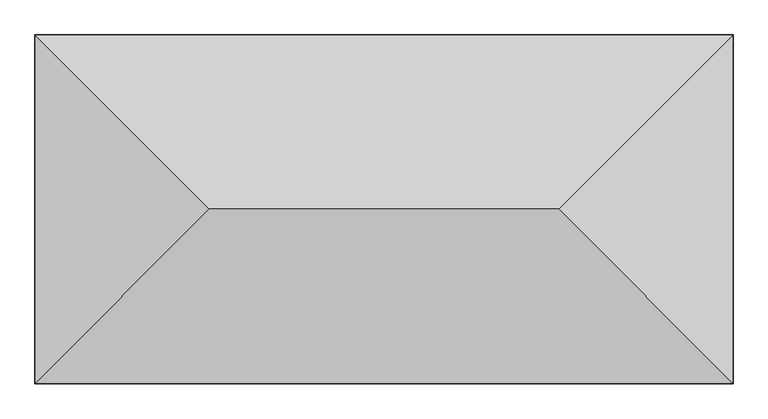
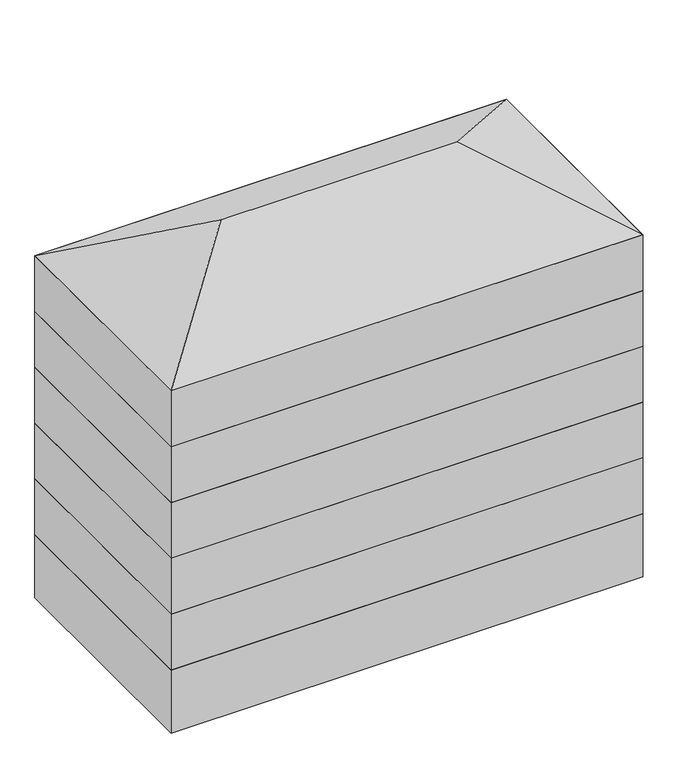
"""IFC4 building model written with IfcOpenShell, lengths in millimetres: geographic element geometry, Окружающая застройка : 5 кж."""

import ifcopenshell
import ifcopenshell.guid

model = None  # the IFC model being written
_history = None  # IfcOwnerHistory: only IFC2X3 demands one
_inside = {}  # id of a spatial element -> (the spatial element, [elements in it])
_under = {}  # id of a project, library or spatial element -> (it, [spatial elements below it])
_declared = {}  # id of a project -> (the project, [libraries it declares])
_typed = {}  # id of a type object -> (the type object, [elements of that type])
_made_of = {}  # id of a material, layer set ... -> (it, [elements and type objects made of it])


def new_model(schema):
    """Start an empty IFC model of exactly this schema.

    Asked for "IFC4X3", IfcOpenShell would pick the latest addendum, in which some entities
    have other attributes; the version numbers below select the first issue.
    IFC2X3 requires an IfcOwnerHistory on every rooted entity: one is made here for all.
    """
    global model, _history
    if schema == "IFC4X3":
        model = ifcopenshell.file(schema_version=(4, 3, 0, 0))
    else:
        model = ifcopenshell.file(schema=schema)
    _inside.clear()
    _under.clear()
    _declared.clear()
    _typed.clear()
    _made_of.clear()
    _history = None
    if model.schema == "IFC2X3":
        org = make("IfcOrganization", Name="unknown")
        user = make(
            "IfcPersonAndOrganization",
            ThePerson=make("IfcPerson", FamilyName="unknown"),
            TheOrganization=org,
        )
        app = make(
            "IfcApplication",
            ApplicationDeveloper=org,
            Version="unknown",
            ApplicationFullName="unknown",
            ApplicationIdentifier="unknown",
        )
        _history = make(
            "IfcOwnerHistory",
            OwningUser=user,
            OwningApplication=app,
            ChangeAction="ADDED",
            CreationDate=0,
        )
    return model


def make(cls, **values):
    """One entity of the class cls with the attributes given. An attribute that is None is left unset."""
    return model.create_entity(
        cls, **{name: value for name, value in values.items() if value is not None}
    )


def rooted(cls, **values):
    """An entity with a GlobalId (a new one), such as an element, a storey or a relation."""
    return make(cls, GlobalId=ifcopenshell.guid.new(), OwnerHistory=_history, **values)


def si_unit(unit_type, name, prefix=None):
    """IfcSIUnit, for example si_unit("LENGTHUNIT", "METRE", prefix="MILLI")."""
    return make("IfcSIUnit", UnitType=unit_type, Prefix=prefix, Name=name)


def assignment(units):
    """IfcUnitAssignment: the units of a project."""
    return None if units is None else make("IfcUnitAssignment", Units=units)


def point(xyz):
    """IfcCartesianPoint."""
    return None if xyz is None else make("IfcCartesianPoint", Coordinates=xyz)


def direction(xyz):
    """IfcDirection."""
    return None if xyz is None else make("IfcDirection", DirectionRatios=xyz)


def frame(location, z_axis=None, x_axis=None):
    """IfcAxis2Placement3D, a coordinate frame: its origin and axes. An axis left out is left unset."""
    return make(
        "IfcAxis2Placement3D",
        Location=point(location),
        Axis=direction(z_axis),
        RefDirection=direction(x_axis),
    )


def origin():
    """The frame at (0, 0, 0) with its axes left unset."""
    return frame((0.0, 0.0, 0.0))


def origin_with_axes():
    """The frame at (0, 0, 0) with the z axis (0, 0, 1) and the x axis (1, 0, 0) written out."""
    return frame((0.0, 0.0, 0.0), z_axis=(0.0, 0.0, 1.0), x_axis=(1.0, 0.0, 0.0))


def place(relative_to, where):
    """IfcLocalPlacement: puts the frame where relative to a parent placement (None: the world)."""
    return make(
        "IfcLocalPlacement", PlacementRelTo=relative_to, RelativePlacement=where
    )


def context(
    kind, dimensions, precision=None, world=None, true_north=None, identifier=None
):
    """IfcGeometricRepresentationContext, for example the 3D "Model" context."""
    return make(
        "IfcGeometricRepresentationContext",
        ContextIdentifier=identifier,
        ContextType=kind,
        CoordinateSpaceDimension=dimensions,
        Precision=precision,
        WorldCoordinateSystem=world,
        TrueNorth=true_north,
    )


def project(units=None, contexts=None):
    """IfcProject with its units and contexts."""
    return rooted(
        "IfcProject",
        Name="project",
        RepresentationContexts=contexts,
        UnitsInContext=assignment(units),
    )


def spatial(cls, under=None, at=None, **own):
    """A site, building, storey or space (cls), placed at a placement, below another one or the project."""
    s = rooted(cls, ObjectPlacement=at, **own)
    if under is not None:
        _under.setdefault(under.id(), (under, []))[1].append(s)
    return s


def polyline(points):
    """IfcPolyline through the points."""
    return make("IfcPolyline", Points=[point(p) for p in points])


def outline(outer, holes=None, kind="AREA"):
    """IfcArbitraryClosedProfileDef: a profile drawn as a closed curve; with holes, ...WithVoids."""
    if holes is None:
        return make("IfcArbitraryClosedProfileDef", ProfileType=kind, OuterCurve=outer)
    return make(
        "IfcArbitraryProfileDefWithVoids",
        ProfileType=kind,
        OuterCurve=outer,
        InnerCurves=holes,
    )


def extrude(swept, where, along, depth):
    """IfcExtrudedAreaSolid: the profile swept, set in the frame where, extruded along a direction by depth."""
    return make(
        "IfcExtrudedAreaSolid",
        SweptArea=swept,
        Position=where,
        ExtrudedDirection=direction(along),
        Depth=depth,
    )


def faces_of(points, faces, orient=None, outer=None):
    """IfcFace entities. A face is a list of loops; a loop is a list of indices into points, from 0.

    orient and outer hold one flag for each loop. By default every Orientation is true, the
    first loop of a face is its IfcFaceOuterBound and the others are IfcFaceBound.
    """
    made = []
    for i, loops in enumerate(faces):
        bounds = []
        for j, loop in enumerate(loops):
            is_outer = j == 0 if outer is None else outer[i][j]
            bounds.append(
                make(
                    "IfcFaceOuterBound" if is_outer else "IfcFaceBound",
                    Bound=make("IfcPolyLoop", Polygon=[points[k] for k in loop]),
                    Orientation=True if orient is None else orient[i][j],
                )
            )
        made.append(make("IfcFace", Bounds=bounds))
    return made


def faceted_brep(points, faces, orient=None, outer=None, voids=None):
    """IfcFacetedBrep: a solid bounded by flat faces; with voids (closed shells), ...WithVoids."""
    shared = [point(p) for p in points]
    hull = make("IfcClosedShell", CfsFaces=faces_of(shared, faces, orient, outer))
    if voids is None:
        return make("IfcFacetedBrep", Outer=hull)
    return make(
        "IfcFacetedBrepWithVoids",
        Outer=hull,
        Voids=[
            make(cls, CfsFaces=faces_of(shared, fs, o, b)) for cls, fs, o, b in voids
        ],
    )


def shape(context_of_items, identifier, shape_type, items):
    """IfcShapeRepresentation: the items that make up one representation, for example the "Body"."""
    return make(
        "IfcShapeRepresentation",
        ContextOfItems=context_of_items,
        RepresentationIdentifier=identifier,
        RepresentationType=shape_type,
        Items=items,
    )


def source(mapping_origin, context_of_items, identifier, shape_type, items):
    """IfcRepresentationMap: a shape defined once, which mapped items show again and again."""
    return make(
        "IfcRepresentationMap",
        MappingOrigin=mapping_origin,
        MappedRepresentation=shape(context_of_items, identifier, shape_type, items),
    )


def transform(
    local_origin,
    x_axis=None,
    y_axis=None,
    z_axis=None,
    scale=None,
    scale2=None,
    scale3=None,
    uniform=True,
):
    """IfcCartesianTransformationOperator3D, or its non-uniform kind. x_axis, y_axis, z_axis: its Axis1, 2, 3."""
    if uniform:
        return make(
            "IfcCartesianTransformationOperator3D",
            Axis1=direction(x_axis),
            Axis2=direction(y_axis),
            LocalOrigin=point(local_origin),
            Scale=scale,
            Axis3=direction(z_axis),
        )
    return make(
        "IfcCartesianTransformationOperator3DnonUniform",
        Axis1=direction(x_axis),
        Axis2=direction(y_axis),
        LocalOrigin=point(local_origin),
        Scale=scale,
        Axis3=direction(z_axis),
        Scale2=scale2,
        Scale3=scale3,
    )


def mapped(mapping_source, mapping_target):
    """IfcMappedItem: shows the shape of a source again, moved by a transform."""
    return make(
        "IfcMappedItem", MappingSource=mapping_source, MappingTarget=mapping_target
    )


def made_of(thing, what):
    """Note that an element or type object is made of a material, layer set ...; save() writes the relation."""
    if what is not None:
        _made_of.setdefault(what.id(), (what, []))[1].append(thing)
    return thing


def element(
    cls,
    number,
    at=None,
    inside=None,
    cuts=None,
    type_object=None,
    material=None,
    context=None,
    identifier="Body",
    shape_type=None,
    held_by="IfcProductDefinitionShape",
    body=None,
    shapes=None,
    **own,
):
    """One element of the class cls, such as IfcWall. Its Tag is "e" and its number.

    at: its placement. inside: the storey or other place that contains it. cuts: it is an
    opening in that element (IfcRelVoidsElement). A single representation is given by context,
    identifier, shape_type and body (its items); several are given by shapes. held_by: the class
    of the entity that holds the representations. save() writes the other relations.
    """
    e = rooted(cls, Tag="e%d" % number, ObjectPlacement=at, **own)
    if body is not None:
        shapes = [shape(context, identifier, shape_type, body)]
    if shapes is not None:
        e.Representation = make(held_by, Representations=shapes)
    if inside is not None:
        _inside.setdefault(inside.id(), (inside, []))[1].append(e)
    if cuts is not None:
        rooted(
            "IfcRelVoidsElement", RelatingBuildingElement=cuts, RelatedOpeningElement=e
        )
    if type_object is not None:
        _typed.setdefault(type_object.id(), (type_object, []))[1].append(e)
    return made_of(e, material)


def aggregate(whole, parts):
    """IfcRelAggregates: a whole, such as a stair, and the parts it consists of."""
    return rooted("IfcRelAggregates", RelatingObject=whole, RelatedObjects=parts)


def save(model, path):
    """Write the relations noted so far, then the file.

    IfcRelAggregates (storeys below a building ...), IfcRelContainedInSpatialStructure (elements
    in a storey), IfcRelDefinesByType, IfcRelAssociatesMaterial and IfcRelDeclares: one each for
    every whole, place, type object, material and project.
    """
    for whole, parts in _under.values():
        aggregate(whole, parts)
    for where, things in _inside.values():
        rooted(
            "IfcRelContainedInSpatialStructure",
            RelatedElements=things,
            RelatingStructure=where,
        )
    for kind, things in _typed.values():
        rooted("IfcRelDefinesByType", RelatedObjects=things, RelatingType=kind)
    for what, things in _made_of.values():
        rooted("IfcRelAssociatesMaterial", RelatedObjects=things, RelatingMaterial=what)
    for by, libraries in _declared.values():
        rooted("IfcRelDeclares", RelatingContext=by, RelatedDefinitions=libraries)
    model.write(path)


def geographic_element_2330d4c5(model_context):
    return source(origin(), model_context, "Body", "SolidModel", [
        extrude(outline(polyline([(24000.0, 0.0), (24000.0, -12000.0), (0.0, -12000.0), (0.0, 0.0), (24000.0, 0.0)])), frame((0.0, 0.0, 12000.0), z_axis=(0.0, 0.0, 1.0), x_axis=(1.0, 0.0, 0.0)), (0.0, 0.0, 1.0), 3000.0),
        extrude(outline(polyline([(24000.0, 0.0), (24000.0, -12000.0), (0.0, -12000.0), (0.0, 0.0), (24000.0, 0.0)])), frame((0.0, 0.0, 9000.0), z_axis=(0.0, 0.0, 1.0), x_axis=(1.0, 0.0, 0.0)), (0.0, 0.0, 1.0), 3000.0),
        extrude(outline(polyline([(24000.0, 0.0), (24000.0, -12000.0), (0.0, -12000.0), (0.0, 0.0), (24000.0, 0.0)])), origin_with_axes(), (0.0, 0.0, 1.0), 3000.0),
        extrude(outline(polyline([(24000.0, -12000.0), (0.0, -12000.0), (0.0, 0.0), (24000.0, 0.0), (24000.0, -12000.0)])), frame((0.0, 0.0, -3390.8), z_axis=(0.0, 0.0, 1.0), x_axis=(1.0, 0.0, 0.0)), (0.0, 0.0, 1.0), 3390.8),
        faceted_brep([(24000.0, 0.0, 15000.0), (24000.0, -12000.0, 15000.0), (0.0, -12000.0, 15000.0), (0.0, 0.0, 15000.0), (18000.0, -6000.0, 18464.1016151), (6000.0, -6000.0, 18464.1016151)], [[[0, 1, 2, 3]], [[1, 4, 5, 2]], [[3, 5, 4, 0]], [[2, 5, 3]], [[0, 4, 1]]]),
        extrude(outline(polyline([(24000.0, 0.0), (24000.0, -12000.0), (0.0, -12000.0), (0.0, 0.0), (24000.0, 0.0)])), frame((0.0, 0.0, 3000.0), z_axis=(0.0, 0.0, 1.0), x_axis=(1.0, 0.0, 0.0)), (0.0, 0.0, 1.0), 3000.0),
        extrude(outline(polyline([(24000.0, 0.0), (24000.0, -12000.0), (0.0, -12000.0), (0.0, 0.0), (24000.0, 0.0)])), frame((0.0, 0.0, 6000.0), z_axis=(0.0, 0.0, 1.0), x_axis=(1.0, 0.0, 0.0)), (0.0, 0.0, 1.0), 3000.0),
    ])


if __name__ == "__main__":
    model = new_model("IFC4")
    model_context = context("Model", 3, world=origin())
    ifc_project = project(units=[si_unit("LENGTHUNIT", "METRE", prefix="MILLI")], contexts=[model_context])
    site = spatial("IfcSite", under=ifc_project)
    building = spatial("IfcBuilding", under=site)
    placement = place(None, origin())
    geographic_element_shape = geographic_element_2330d4c5(model_context)
    element("IfcGeographicElement", 1, ObjectType="Окружающая застройка : 5 кж", at=placement, inside=building, context=model_context, shape_type="MappedRepresentation", body=[
        mapped(geographic_element_shape, transform((0.0, 0.0, 0.0), x_axis=(1.0, 0.0, 0.0), y_axis=(0.0, 1.0, 0.0), z_axis=(0.0, 0.0, 1.0))),
    ])
    save(model, "model.ifc")
